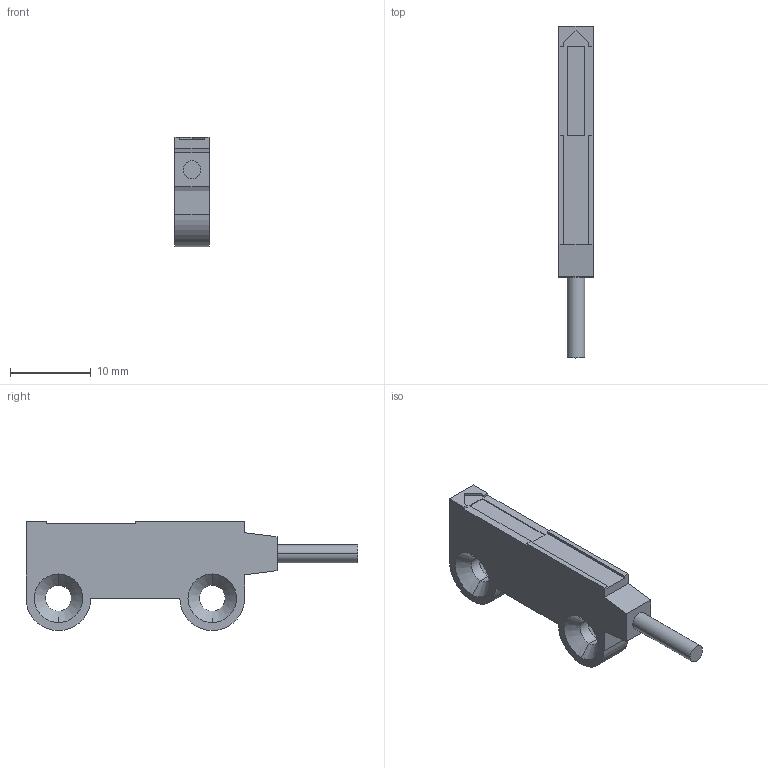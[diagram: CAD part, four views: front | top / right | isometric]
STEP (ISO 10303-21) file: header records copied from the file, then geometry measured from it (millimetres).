
FILE_DESCRIPTION (( 'STEP AP203' ), '1' );
FILE_NAME ('FT-A8.STEP', '2005-10-24T01:14:00', ( 'MF1158' ), ( 'sunx' ), 'SwSTEP 2.0', 'SolidWorks 2004073', '' );
FILE_SCHEMA (( 'CONFIG_CONTROL_DESIGN' ));
Length unit declared in the file: millimetre
Products named in the file (1): FT-A8
Bounding box: 4.2 x 41 x 13.5 mm (x, y, z)
Volume: 1257.4 mm3; surface area: 1129.9 mm2
Topology: 1 solids, 1 shells, 47 faces, 121 edges, 78 vertices
Faces by surface type: plane 29, cylinder 10, cone 8
Entity records: 1504 total; most frequent: CARTESIAN_POINT 247, DIRECTION 245, ORIENTED_EDGE 242, EDGE_CURVE 121, LINE 93, VECTOR 93, VERTEX_POINT 78, AXIS2_PLACEMENT_3D 76
